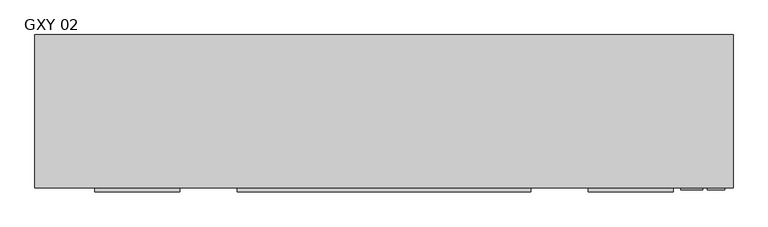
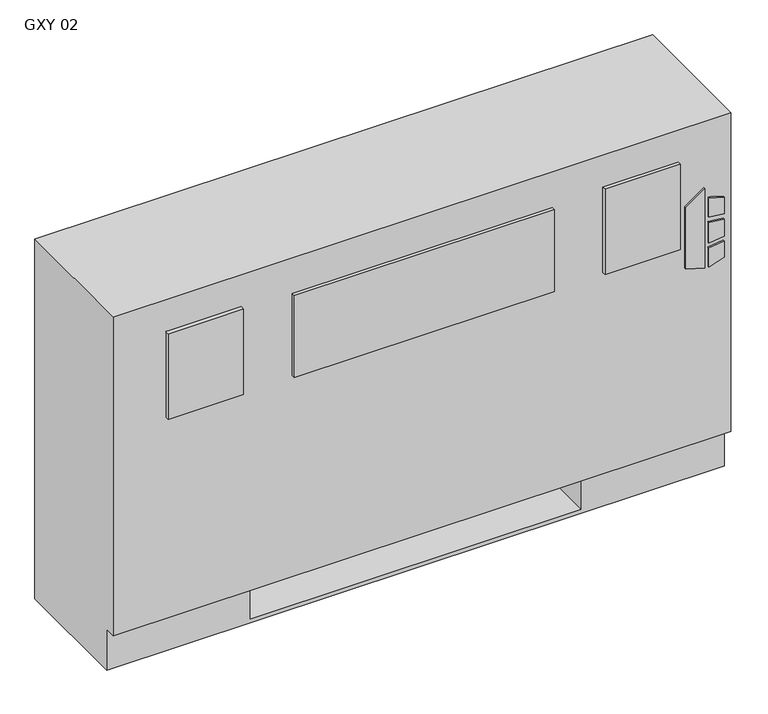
"""IFC4 building model written with IfcOpenShell, lengths in millimetres: proxy geometry, Vertical_Fan_Coil_Unit_-_GXY_-_IEC_-_2-Pipe_FS-FR_LH_2022 : GXY 02."""

import ifcopenshell
import ifcopenshell.guid

model = None  # the IFC model being written
_history = None  # IfcOwnerHistory: only IFC2X3 demands one
_inside = {}  # id of a spatial element -> (the spatial element, [elements in it])
_under = {}  # id of a project, library or spatial element -> (it, [spatial elements below it])
_declared = {}  # id of a project -> (the project, [libraries it declares])
_typed = {}  # id of a type object -> (the type object, [elements of that type])
_made_of = {}  # id of a material, layer set ... -> (it, [elements and type objects made of it])


def new_model(schema):
    """Start an empty IFC model of exactly this schema.

    Asked for "IFC4X3", IfcOpenShell would pick the latest addendum, in which some entities
    have other attributes; the version numbers below select the first issue.
    IFC2X3 requires an IfcOwnerHistory on every rooted entity: one is made here for all.
    """
    global model, _history
    if schema == "IFC4X3":
        model = ifcopenshell.file(schema_version=(4, 3, 0, 0))
    else:
        model = ifcopenshell.file(schema=schema)
    _inside.clear()
    _under.clear()
    _declared.clear()
    _typed.clear()
    _made_of.clear()
    _history = None
    if model.schema == "IFC2X3":
        org = make("IfcOrganization", Name="unknown")
        user = make(
            "IfcPersonAndOrganization",
            ThePerson=make("IfcPerson", FamilyName="unknown"),
            TheOrganization=org,
        )
        app = make(
            "IfcApplication",
            ApplicationDeveloper=org,
            Version="unknown",
            ApplicationFullName="unknown",
            ApplicationIdentifier="unknown",
        )
        _history = make(
            "IfcOwnerHistory",
            OwningUser=user,
            OwningApplication=app,
            ChangeAction="ADDED",
            CreationDate=0,
        )
    return model


def make(cls, **values):
    """One entity of the class cls with the attributes given. An attribute that is None is left unset."""
    return model.create_entity(
        cls, **{name: value for name, value in values.items() if value is not None}
    )


def rooted(cls, **values):
    """An entity with a GlobalId (a new one), such as an element, a storey or a relation."""
    return make(cls, GlobalId=ifcopenshell.guid.new(), OwnerHistory=_history, **values)


def si_unit(unit_type, name, prefix=None):
    """IfcSIUnit, for example si_unit("LENGTHUNIT", "METRE", prefix="MILLI")."""
    return make("IfcSIUnit", UnitType=unit_type, Prefix=prefix, Name=name)


def assignment(units):
    """IfcUnitAssignment: the units of a project."""
    return None if units is None else make("IfcUnitAssignment", Units=units)


def point(xyz):
    """IfcCartesianPoint."""
    return None if xyz is None else make("IfcCartesianPoint", Coordinates=xyz)


def direction(xyz):
    """IfcDirection."""
    return None if xyz is None else make("IfcDirection", DirectionRatios=xyz)


def frame(location, z_axis=None, x_axis=None):
    """IfcAxis2Placement3D, a coordinate frame: its origin and axes. An axis left out is left unset."""
    return make(
        "IfcAxis2Placement3D",
        Location=point(location),
        Axis=direction(z_axis),
        RefDirection=direction(x_axis),
    )


def frame_2d(location, x_axis=None):
    """IfcAxis2Placement2D, a coordinate frame in the plane: its origin and x axis."""
    return make(
        "IfcAxis2Placement2D", Location=point(location), RefDirection=direction(x_axis)
    )


def origin():
    """The frame at (0, 0, 0) with its axes left unset."""
    return frame((0.0, 0.0, 0.0))


def place(relative_to, where):
    """IfcLocalPlacement: puts the frame where relative to a parent placement (None: the world)."""
    return make(
        "IfcLocalPlacement", PlacementRelTo=relative_to, RelativePlacement=where
    )


def context(
    kind, dimensions, precision=None, world=None, true_north=None, identifier=None
):
    """IfcGeometricRepresentationContext, for example the 3D "Model" context."""
    return make(
        "IfcGeometricRepresentationContext",
        ContextIdentifier=identifier,
        ContextType=kind,
        CoordinateSpaceDimension=dimensions,
        Precision=precision,
        WorldCoordinateSystem=world,
        TrueNorth=true_north,
    )


def project(units=None, contexts=None):
    """IfcProject with its units and contexts."""
    return rooted(
        "IfcProject",
        Name="project",
        RepresentationContexts=contexts,
        UnitsInContext=assignment(units),
    )


def spatial(cls, under=None, at=None, **own):
    """A site, building, storey or space (cls), placed at a placement, below another one or the project."""
    s = rooted(cls, ObjectPlacement=at, **own)
    if under is not None:
        _under.setdefault(under.id(), (under, []))[1].append(s)
    return s


def polyline(points):
    """IfcPolyline through the points."""
    return make("IfcPolyline", Points=[point(p) for p in points])


def circle_curve(where, radius):
    """IfcCircle in the frame where."""
    return make("IfcCircle", Position=where, Radius=radius)


def trimmed(basis, trim1, trim2, sense, master):
    """IfcTrimmedCurve: the piece of a basis curve between two trims."""
    return make(
        "IfcTrimmedCurve",
        BasisCurve=basis,
        Trim1=trim1,
        Trim2=trim2,
        SenseAgreement=sense,
        MasterRepresentation=master,
    )


def segment(curve, same_sense, transition):
    """IfcCompositeCurveSegment."""
    return make(
        "IfcCompositeCurveSegment",
        Transition=transition,
        SameSense=same_sense,
        ParentCurve=curve,
    )


def composite_curve(segments, self_intersect=None):
    """IfcCompositeCurve: segments joined end to end."""
    return make("IfcCompositeCurve", Segments=segments, SelfIntersect=self_intersect)


def outline(outer, holes=None, kind="AREA"):
    """IfcArbitraryClosedProfileDef: a profile drawn as a closed curve; with holes, ...WithVoids."""
    if holes is None:
        return make("IfcArbitraryClosedProfileDef", ProfileType=kind, OuterCurve=outer)
    return make(
        "IfcArbitraryProfileDefWithVoids",
        ProfileType=kind,
        OuterCurve=outer,
        InnerCurves=holes,
    )


def extrude(swept, where, along, depth):
    """IfcExtrudedAreaSolid: the profile swept, set in the frame where, extruded along a direction by depth."""
    return make(
        "IfcExtrudedAreaSolid",
        SweptArea=swept,
        Position=where,
        ExtrudedDirection=direction(along),
        Depth=depth,
    )


def shape(context_of_items, identifier, shape_type, items):
    """IfcShapeRepresentation: the items that make up one representation, for example the "Body"."""
    return make(
        "IfcShapeRepresentation",
        ContextOfItems=context_of_items,
        RepresentationIdentifier=identifier,
        RepresentationType=shape_type,
        Items=items,
    )


def source(mapping_origin, context_of_items, identifier, shape_type, items):
    """IfcRepresentationMap: a shape defined once, which mapped items show again and again."""
    return make(
        "IfcRepresentationMap",
        MappingOrigin=mapping_origin,
        MappedRepresentation=shape(context_of_items, identifier, shape_type, items),
    )


def transform(
    local_origin,
    x_axis=None,
    y_axis=None,
    z_axis=None,
    scale=None,
    scale2=None,
    scale3=None,
    uniform=True,
):
    """IfcCartesianTransformationOperator3D, or its non-uniform kind. x_axis, y_axis, z_axis: its Axis1, 2, 3."""
    if uniform:
        return make(
            "IfcCartesianTransformationOperator3D",
            Axis1=direction(x_axis),
            Axis2=direction(y_axis),
            LocalOrigin=point(local_origin),
            Scale=scale,
            Axis3=direction(z_axis),
        )
    return make(
        "IfcCartesianTransformationOperator3DnonUniform",
        Axis1=direction(x_axis),
        Axis2=direction(y_axis),
        LocalOrigin=point(local_origin),
        Scale=scale,
        Axis3=direction(z_axis),
        Scale2=scale2,
        Scale3=scale3,
    )


def mapped(mapping_source, mapping_target):
    """IfcMappedItem: shows the shape of a source again, moved by a transform."""
    return make(
        "IfcMappedItem", MappingSource=mapping_source, MappingTarget=mapping_target
    )


def made_of(thing, what):
    """Note that an element or type object is made of a material, layer set ...; save() writes the relation."""
    if what is not None:
        _made_of.setdefault(what.id(), (what, []))[1].append(thing)
    return thing


def element(
    cls,
    number,
    at=None,
    inside=None,
    cuts=None,
    type_object=None,
    material=None,
    context=None,
    identifier="Body",
    shape_type=None,
    held_by="IfcProductDefinitionShape",
    body=None,
    shapes=None,
    **own,
):
    """One element of the class cls, such as IfcWall. Its Tag is "e" and its number.

    at: its placement. inside: the storey or other place that contains it. cuts: it is an
    opening in that element (IfcRelVoidsElement). A single representation is given by context,
    identifier, shape_type and body (its items); several are given by shapes. held_by: the class
    of the entity that holds the representations. save() writes the other relations.
    """
    e = rooted(cls, Tag="e%d" % number, ObjectPlacement=at, **own)
    if body is not None:
        shapes = [shape(context, identifier, shape_type, body)]
    if shapes is not None:
        e.Representation = make(held_by, Representations=shapes)
    if inside is not None:
        _inside.setdefault(inside.id(), (inside, []))[1].append(e)
    if cuts is not None:
        rooted(
            "IfcRelVoidsElement", RelatingBuildingElement=cuts, RelatedOpeningElement=e
        )
    if type_object is not None:
        _typed.setdefault(type_object.id(), (type_object, []))[1].append(e)
    return made_of(e, material)


def aggregate(whole, parts):
    """IfcRelAggregates: a whole, such as a stair, and the parts it consists of."""
    return rooted("IfcRelAggregates", RelatingObject=whole, RelatedObjects=parts)


def save(model, path):
    """Write the relations noted so far, then the file.

    IfcRelAggregates (storeys below a building ...), IfcRelContainedInSpatialStructure (elements
    in a storey), IfcRelDefinesByType, IfcRelAssociatesMaterial and IfcRelDeclares: one each for
    every whole, place, type object, material and project.
    """
    for whole, parts in _under.values():
        aggregate(whole, parts)
    for where, things in _inside.values():
        rooted(
            "IfcRelContainedInSpatialStructure",
            RelatedElements=things,
            RelatingStructure=where,
        )
    for kind, things in _typed.values():
        rooted("IfcRelDefinesByType", RelatedObjects=things, RelatingType=kind)
    for what, things in _made_of.values():
        rooted("IfcRelAssociatesMaterial", RelatedObjects=things, RelatingMaterial=what)
    for by, libraries in _declared.values():
        rooted("IfcRelDeclares", RelatingContext=by, RelatedDefinitions=libraries)
    model.write(path)


def plane_surface(at):
    """IfcPlane: the flat surface through the origin of the frame at, square to its z axis."""
    return make("IfcPlane", Position=at)


def revolved_surface(curve, axis_point, axis_direction):
    """IfcSurfaceOfRevolution: the curve turned about the line through axis_point along axis_direction."""
    return make(
        "IfcSurfaceOfRevolution",
        SweptCurve=make("IfcArbitraryOpenProfileDef", ProfileType="CURVE", Curve=curve),
        AxisPosition=make("IfcAxis1Placement", Location=point(axis_point), Axis=direction(axis_direction)),
    )


def advanced_brep(points, edges, surfaces, faces):
    """IfcAdvancedBrep: a solid bounded by faces that lie on surfaces and meet in shared edges.

    An edge is (start, end): straight between two places in points (the first is 0);
    or (start, end, curve); or (start, end, curve, False) where it runs against its curve.
    A face is (place in surfaces, loops), or (place, loops, False) where it looks against
    its surface's normal. A loop lists edges by number (the first is 1), with a minus sign
    where the edge is run from its end to its start. The first loop is the outer one.
    """
    corners = [point(p) for p in points]
    vertices = [make("IfcVertexPoint", VertexGeometry=c) for c in corners]
    made = []
    for start, end, *more in edges:
        made.append(
            make(
                "IfcEdgeCurve",
                EdgeStart=vertices[start],
                EdgeEnd=vertices[end],
                EdgeGeometry=more[0] if more else make("IfcPolyline", Points=[corners[start], corners[end]]),
                SameSense=more[1] if len(more) > 1 else True,
            )
        )
    hull = []
    for where, loops, *sense in faces:
        bounds = []
        for j, loop in enumerate(loops):
            ring = [make("IfcOrientedEdge", EdgeElement=made[abs(k) - 1], Orientation=k > 0) for k in loop]
            bounds.append(
                make(
                    "IfcFaceOuterBound" if j == 0 else "IfcFaceBound",
                    Bound=make("IfcEdgeLoop", EdgeList=ring),
                    Orientation=True,
                )
            )
        hull.append(make("IfcAdvancedFace", Bounds=bounds, FaceSurface=surfaces[where], SameSense=sense[0] if sense else True))
    return make("IfcAdvancedBrep", Outer=make("IfcClosedShell", CfsFaces=hull))


def gxy_02_a3ff833b(model_context):
    return source(origin(), model_context, "Body", "SolidModel", [
        extrude(outline(polyline([(391.6086829, 595.3868862), (381.6606126, 627.5602728), (523.831537, 627.5602728), (500.8095309, 595.3868862), (391.6086829, 595.3868862)])), frame((0.0, 12.7, 0.0), z_axis=(0.0, 1.0, 0.0), x_axis=(0.0, 0.0, 1.0)), (0.0, 0.0, 1.0), 3.175),
        extrude(outline(polyline([(470.6079683, 634.3186058), (467.4055757, 660.4), (496.6344168, 660.4), (504.6988318, 634.3186058), (470.6079683, 634.3186058)])), frame((0.0, 12.7, 0.0), z_axis=(0.0, 1.0, 0.0), x_axis=(0.0, 0.0, 1.0)), (0.0, 0.0, 1.0), 3.175),
        extrude(outline(polyline([(418.7444414, 660.4), (415.0789404, 634.3186058), (381.6606126, 634.3186058), (390.2948498, 660.4), (418.7444414, 660.4)])), frame((0.0, 12.7, 0.0), z_axis=(0.0, 1.0, 0.0), x_axis=(0.0, 0.0, 1.0)), (0.0, 0.0, 1.0), 3.175),
        extrude(outline(polyline([(458.0596028, 660.4), (460.3414292, 634.3186058), (424.4038806, 634.3186058), (427.1451456, 660.4), (458.0596028, 660.4)])), frame((0.0, 12.7, 0.0), z_axis=(0.0, 1.0, 0.0), x_axis=(0.0, 0.0, 1.0)), (0.0, 0.0, 1.0), 3.175),
        extrude(outline(polyline([(-152.4, 9.525), (-279.4, 9.525), (-279.4, 15.875), (-152.4, 15.875), (-152.4, 9.525)])), frame((0.0, 0.0, 431.8), z_axis=(0.0, 0.0, 1.0), x_axis=(1.0, 0.0, 0.0)), (0.0, 0.0, 1.0), 152.4),
        extrude(outline(polyline([(371.475, 9.525), (-66.675, 9.525), (-66.675, 15.875), (371.475, 15.875), (371.475, 9.525)])), frame((0.0, 0.0, 431.8), z_axis=(0.0, 0.0, 1.0), x_axis=(1.0, 0.0, 0.0)), (0.0, 0.0, 1.0), 146.05),
        extrude(outline(polyline([(584.2, 9.525), (457.2, 9.525), (457.2, 15.875), (584.2, 15.875), (584.2, 9.525)])), frame((0.0, 0.0, 431.8), z_axis=(0.0, 0.0, 1.0), x_axis=(1.0, 0.0, 0.0)), (0.0, 0.0, 1.0), 152.4),
        extrude(outline(polyline([(431.8, 81.534), (431.8, 223.266), (552.45, 223.266), (552.45, 81.534), (431.8, 81.534)])), frame((0.0, 0.0, 327.025), z_axis=(0.0, 0.0, 1.0), x_axis=(1.0, 0.0, 0.0)), (0.0, 0.0, 1.0), 260.35),
        extrude(outline(composite_curve([segment(trimmed(circle_curve(frame_2d((78.9432, 398.5514)), 7.9375), [point((78.9432, 406.4889))], [point((78.9432, 390.6139))], False, "CARTESIAN"), True, "CONTINUOUS"), segment(trimmed(circle_curve(frame_2d((78.9432, 398.5514)), 7.9375), [point((78.9432, 390.6139))], [point((78.9432, 406.4889))], False, "CARTESIAN"), True, "CONTINUOUS")], self_intersect=False)), frame((-177.8, 0.0, 0.0), z_axis=(1.0, 0.0, 0.0), x_axis=(0.0, 1.0, 0.0)), (0.0, 0.0, 1.0), 50.8),
        extrude(outline(composite_curve([segment(trimmed(circle_curve(frame_2d((155.9052, 537.3878)), 7.9375), [point((155.9052, 545.3253))], [point((155.9052, 529.4503))], False, "CARTESIAN"), True, "CONTINUOUS"), segment(trimmed(circle_curve(frame_2d((155.9052, 537.3878)), 7.9375), [point((155.9052, 529.4503))], [point((155.9052, 545.3253))], False, "CARTESIAN"), True, "CONTINUOUS")], self_intersect=False)), frame((-177.8, 0.0, 0.0), z_axis=(1.0, 0.0, 0.0), x_axis=(0.0, 1.0, 0.0)), (0.0, 0.0, 1.0), 50.8),
        advanced_brep(
        [(673.1, 244.475, 641.35), (-368.3, 244.475, 641.35), (-368.3, 15.875, 641.35), (673.1, 15.875, 641.35), (-368.3, 244.475, 0.0), (673.1, 244.475, 0.0), (673.1, 34.925, 0.0), (-368.3, 34.925, 0.0), (431.8, 244.475, 73.025), (660.4, 244.475, 73.025), (660.4, 244.475, 628.65), (431.8, 244.475, 628.65), (431.8, 244.475, 418.0400565), (460.375, 244.475, 418.0400565), (460.375, 244.475, 388.4099435), (431.8, 244.475, 388.4099435), (431.8, 244.475, 290.5125), (460.375, 244.475, 290.5125), (460.375, 244.475, 261.9375), (431.8, 244.475, 261.9375), (431.8, 244.475, 119.0625), (460.375, 244.475, 119.0625), (460.375, 244.475, 90.4875), (431.8, 244.475, 90.4875), (-127.0, 244.475, 628.65), (-355.6, 244.475, 628.65), (-355.6, 244.475, 73.025), (-127.0, 244.475, 73.025), (-127.0, 244.475, 90.4875), (-155.575, 244.475, 90.4875), (-155.575, 244.475, 119.0625), (-127.0, 244.475, 119.0625), (-127.0, 244.475, 261.9375), (-155.575, 244.475, 261.9375), (-155.575, 244.475, 290.5125), (-127.0, 244.475, 290.5125), (-127.0, 244.475, 388.4099435), (-155.575, 244.475, 388.4099435), (-155.575, 244.475, 418.0400565), (-127.0, 244.475, 418.0400565), (450.0626, 244.475, 104.775), (438.9374, 244.475, 104.775), (450.0626, 244.475, 403.225), (438.9374, 244.475, 403.225), (450.0626, 244.475, 276.225), (438.9374, 244.475, 276.225), (-134.1374, 244.475, 104.775), (-145.2626, 244.475, 104.775), (-134.1374, 244.475, 276.225), (-145.2626, 244.475, 276.225), (-134.1374, 244.475, 403.225), (-145.2626, 244.475, 403.225), (-368.3, 34.925, 73.025), (-368.3, 15.875, 73.025), (673.1, 15.875, 73.025), (673.1, 34.925, 73.025), (-127.0, 34.925, 73.025), (-127.0, 219.075, 73.025), (431.8, 219.075, 73.025), (431.8, 34.925, 73.025), (431.8, 34.925, 6.35), (-127.0, 34.925, 6.35), (431.8, 41.275, 628.65), (660.4, 41.275, 628.65), (660.4, 41.275, 73.025), (431.8, 41.275, 73.025), (-127.0, 41.275, 628.65), (-127.0, 41.275, 73.025), (-355.6, 41.275, 73.025), (-355.6, 41.275, 628.65), (431.8, 219.075, 73.025), (431.8, 238.125, 90.4875), (431.8, 238.125, 119.0625), (431.8, 238.125, 261.9375), (431.8, 238.125, 290.5125), (431.8, 238.125, 388.4099435), (431.8, 238.125, 418.0400565), (-127.0, 219.075, 73.025), (-127.0, 238.125, 418.0400565), (-127.0, 238.125, 388.4099435), (-127.0, 238.125, 290.5125), (-127.0, 238.125, 261.9375), (-127.0, 238.125, 119.0625), (-127.0, 238.125, 90.4875), (-127.0, 219.075, 6.35), (431.8, 219.075, 6.35), (460.375, 238.125, 90.4875), (460.375, 238.125, 119.0625), (438.9374, 238.125, 104.775), (450.0626, 238.125, 104.775), (460.375, 238.125, 261.9375), (460.375, 238.125, 290.5125), (438.9374, 238.125, 276.225), (450.0626, 238.125, 276.225), (460.375, 238.125, 388.4099435), (460.375, 238.125, 418.0400565), (438.9374, 238.125, 403.225), (450.0626, 238.125, 403.225), (-155.575, 238.125, 119.0625), (-155.575, 238.125, 90.4875), (-145.2626, 238.125, 104.775), (-134.1374, 238.125, 104.775), (-155.575, 238.125, 290.5125), (-155.575, 238.125, 261.9375), (-145.2626, 238.125, 276.225), (-134.1374, 238.125, 276.225), (-155.575, 238.125, 418.0400565), (-155.575, 238.125, 388.4099435), (-145.2626, 238.125, 403.225), (-134.1374, 238.125, 403.225)],
        [
            (0, 1),
            (1, 2),
            (2, 3),
            (3, 0),
            (4, 5),
            (5, 6),
            (6, 7),
            (7, 4),
            (0, 5),
            (4, 1),
            (8, 9),
            (9, 10),
            (10, 11),
            (11, 12),
            (12, 13),
            (13, 14),
            (14, 15),
            (15, 16),
            (16, 17),
            (17, 18),
            (18, 19),
            (19, 20),
            (20, 21),
            (21, 22),
            (22, 23),
            (23, 8),
            (24, 25),
            (25, 26),
            (26, 27),
            (27, 28),
            (28, 29),
            (29, 30),
            (30, 31),
            (31, 32),
            (32, 33),
            (33, 34),
            (34, 35),
            (35, 36),
            (36, 37),
            (37, 38),
            (38, 39),
            (39, 24),
            (40, 41, circle_curve(frame((444.5, 244.475, 104.775), z_axis=(0.0, -1.0, 0.0), x_axis=(-1.0, 0.0, 0.0)), 5.5626)),
            (41, 40, circle_curve(frame((444.5, 244.475, 104.775), z_axis=(0.0, -1.0, 0.0), x_axis=(-1.0, 0.0, 0.0)), 5.5626)),
            (42, 43, circle_curve(frame((444.5, 244.475, 403.225), z_axis=(0.0, -1.0, 0.0), x_axis=(-1.0, 0.0, 0.0)), 5.5626)),
            (43, 42, circle_curve(frame((444.5, 244.475, 403.225), z_axis=(0.0, -1.0, 0.0), x_axis=(-1.0, 0.0, 0.0)), 5.5626)),
            (44, 45, circle_curve(frame((444.5, 244.475, 276.225), z_axis=(0.0, -1.0, 0.0), x_axis=(-1.0, 0.0, 0.0)), 5.5626)),
            (45, 44, circle_curve(frame((444.5, 244.475, 276.225), z_axis=(0.0, -1.0, 0.0), x_axis=(-1.0, 0.0, 0.0)), 5.5626)),
            (46, 47, circle_curve(frame((-139.7, 244.475, 104.775), z_axis=(0.0, -1.0, 0.0), x_axis=(-1.0, 0.0, 0.0)), 5.5626)),
            (47, 46, circle_curve(frame((-139.7, 244.475, 104.775), z_axis=(0.0, -1.0, 0.0), x_axis=(-1.0, 0.0, 0.0)), 5.5626)),
            (48, 49, circle_curve(frame((-139.7, 244.475, 276.225), z_axis=(0.0, -1.0, 0.0), x_axis=(-1.0, 0.0, 0.0)), 5.5626)),
            (49, 48, circle_curve(frame((-139.7, 244.475, 276.225), z_axis=(0.0, -1.0, 0.0), x_axis=(-1.0, 0.0, 0.0)), 5.5626)),
            (50, 51, circle_curve(frame((-139.7, 244.475, 403.225), z_axis=(0.0, -1.0, 0.0), x_axis=(-1.0, 0.0, 0.0)), 5.5626)),
            (51, 50, circle_curve(frame((-139.7, 244.475, 403.225), z_axis=(0.0, -1.0, 0.0), x_axis=(-1.0, 0.0, 0.0)), 5.5626)),
            (7, 52),
            (52, 53),
            (53, 2),
            (53, 54),
            (54, 3),
            (54, 55),
            (55, 6),
            (52, 56),
            (56, 57),
            (57, 58),
            (58, 59),
            (59, 55),
            (59, 60),
            (60, 61),
            (61, 56),
            (62, 63),
            (63, 64),
            (64, 65),
            (65, 62),
            (66, 67),
            (67, 68),
            (68, 69),
            (69, 66),
            (65, 70),
            (70, 8),
            (23, 71),
            (71, 72),
            (72, 20),
            (19, 73),
            (73, 74),
            (74, 16),
            (15, 75),
            (75, 76),
            (76, 12),
            (11, 62),
            (64, 9),
            (63, 10),
            (69, 25),
            (24, 66),
            (68, 26),
            (67, 77),
            (77, 27),
            (39, 78),
            (78, 79),
            (79, 36),
            (35, 80),
            (80, 81),
            (81, 32),
            (31, 82),
            (82, 83),
            (83, 28),
            (57, 84),
            (84, 85),
            (85, 58),
            (85, 60),
            (84, 61),
            (71, 86),
            (86, 87),
            (87, 72),
            (88, 89, circle_curve(frame((444.5, 238.125, 104.775), z_axis=(0.0, 1.0, 0.0), x_axis=(-1.0, 0.0, 0.0)), 5.5626)),
            (89, 88, circle_curve(frame((444.5, 238.125, 104.775), z_axis=(0.0, 1.0, 0.0), x_axis=(-1.0, 0.0, 0.0)), 5.5626)),
            (73, 90),
            (90, 91),
            (91, 74),
            (92, 93, circle_curve(frame((444.5, 238.125, 276.225), z_axis=(0.0, 1.0, 0.0), x_axis=(-1.0, 0.0, 0.0)), 5.5626)),
            (93, 92, circle_curve(frame((444.5, 238.125, 276.225), z_axis=(0.0, 1.0, 0.0), x_axis=(-1.0, 0.0, 0.0)), 5.5626)),
            (75, 94),
            (94, 95),
            (95, 76),
            (96, 97, circle_curve(frame((444.5, 238.125, 403.225), z_axis=(0.0, 1.0, 0.0), x_axis=(-1.0, 0.0, 0.0)), 5.5626)),
            (97, 96, circle_curve(frame((444.5, 238.125, 403.225), z_axis=(0.0, 1.0, 0.0), x_axis=(-1.0, 0.0, 0.0)), 5.5626)),
            (98, 99),
            (99, 83),
            (82, 98),
            (100, 101, circle_curve(frame((-139.7, 238.125, 104.775), z_axis=(0.0, 1.0, 0.0), x_axis=(-1.0, 0.0, 0.0)), 5.5626)),
            (101, 100, circle_curve(frame((-139.7, 238.125, 104.775), z_axis=(0.0, 1.0, 0.0), x_axis=(-1.0, 0.0, 0.0)), 5.5626)),
            (102, 103),
            (103, 81),
            (80, 102),
            (104, 105, circle_curve(frame((-139.7, 238.125, 276.225), z_axis=(0.0, 1.0, 0.0), x_axis=(-1.0, 0.0, 0.0)), 5.5626)),
            (105, 104, circle_curve(frame((-139.7, 238.125, 276.225), z_axis=(0.0, 1.0, 0.0), x_axis=(-1.0, 0.0, 0.0)), 5.5626)),
            (106, 107),
            (107, 79),
            (78, 106),
            (108, 109, circle_curve(frame((-139.7, 238.125, 403.225), z_axis=(0.0, 1.0, 0.0), x_axis=(-1.0, 0.0, 0.0)), 5.5626)),
            (109, 108, circle_curve(frame((-139.7, 238.125, 403.225), z_axis=(0.0, 1.0, 0.0), x_axis=(-1.0, 0.0, 0.0)), 5.5626)),
            (87, 21),
            (86, 22),
            (91, 17),
            (90, 18),
            (95, 13),
            (94, 14),
            (30, 98),
            (99, 29),
            (34, 102),
            (103, 33),
            (38, 106),
            (107, 37),
            (88, 41),
            (40, 89),
            (96, 43),
            (42, 97),
            (92, 45),
            (44, 93),
            (100, 47),
            (46, 101),
            (104, 49),
            (48, 105),
            (108, 51),
            (50, 109),
        ],
        [
            plane_surface(frame((-368.3, 244.475, 641.35), z_axis=(0.0, 0.0, 1.0), x_axis=(-1.0, 0.0, 0.0))),
            plane_surface(frame((-368.3, 244.475, 0.0), z_axis=(0.0, 0.0, -1.0), x_axis=(1.0, 0.0, 0.0))),
            plane_surface(frame((673.1, 244.475, 641.35), z_axis=(0.0, 1.0, 0.0), x_axis=(0.0, 0.0, -1.0))),
            plane_surface(frame((-368.3, 244.475, 641.35), z_axis=(-1.0, 0.0, 0.0), x_axis=(0.0, 0.0, -1.0))),
            plane_surface(frame((-368.3, 15.875, 641.35), z_axis=(0.0, -1.0, 0.0), x_axis=(0.0, 0.0, -1.0))),
            plane_surface(frame((673.1, 15.875, 641.35), z_axis=(1.0, 0.0, 0.0), x_axis=(0.0, 0.0, -1.0))),
            plane_surface(frame((-368.3, 15.875, 73.025), z_axis=(0.0, 0.0, -1.0), x_axis=(1.0, 0.0, 0.0))),
            plane_surface(frame((-368.3, 34.925, 73.025), z_axis=(0.0, -1.0, 0.0), x_axis=(1.0, 0.0, 0.0))),
            plane_surface(frame((431.8, 41.275, 628.65), z_axis=(0.0, 1.0, 0.0), x_axis=(0.0, 0.0, -1.0))),
            plane_surface(frame((431.8, 41.275, 628.65), z_axis=(1.0, 0.0, 0.0), x_axis=(0.0, 1.0, 0.0))),
            plane_surface(frame((431.8, 41.275, 73.025), z_axis=(0.0, 0.0, 1.0), x_axis=(0.0, 1.0, 0.0))),
            plane_surface(frame((660.4, 41.275, 73.025), z_axis=(-1.0, 0.0, 0.0), x_axis=(0.0, 1.0, 0.0))),
            plane_surface(frame((660.4, 41.275, 628.65), z_axis=(0.0, 0.0, -1.0), x_axis=(0.0, 1.0, 0.0))),
            plane_surface(frame((-127.0, 41.275, 628.65), z_axis=(0.0, 0.0, -1.0), x_axis=(0.0, 1.0, 0.0))),
            plane_surface(frame((-355.6, 41.275, 628.65), z_axis=(1.0, 0.0, 0.0), x_axis=(0.0, 1.0, 0.0))),
            plane_surface(frame((-355.6, 41.275, 73.025), z_axis=(0.0, 0.0, 1.0), x_axis=(0.0, 1.0, 0.0))),
            plane_surface(frame((-127.0, 41.275, 73.025), z_axis=(-1.0, 0.0, 0.0), x_axis=(0.0, 1.0, 0.0))),
            plane_surface(frame((431.8, 219.075, 73.025), z_axis=(0.0, -1.0, 0.0), x_axis=(0.0, 0.0, -1.0))),
            plane_surface(frame((431.8, 219.075, 73.025), z_axis=(-1.0, 0.0, 0.0), x_axis=(0.0, -1.0, 0.0))),
            plane_surface(frame((431.8, 219.075, 6.35), z_axis=(0.0, 0.0, 1.0), x_axis=(0.0, -1.0, 0.0))),
            plane_surface(frame((-127.0, 219.075, 6.35), z_axis=(1.0, 0.0, 0.0), x_axis=(0.0, -1.0, 0.0))),
            plane_surface(frame((460.375, 238.125, 119.0625), z_axis=(0.0, -1.0, 0.0), x_axis=(-1.0, 0.0, 0.0))),
            plane_surface(frame((431.8, 244.475, 119.0625), z_axis=(0.0, 0.0, 1.0), x_axis=(0.0, -1.0, 0.0))),
            plane_surface(frame((460.375, 244.475, 119.0625), z_axis=(1.0, 0.0, 0.0), x_axis=(0.0, -1.0, 0.0))),
            plane_surface(frame((460.375, 244.475, 90.4875), z_axis=(0.0, 0.0, -1.0), x_axis=(0.0, -1.0, 0.0))),
            plane_surface(frame((431.8, 244.475, 290.5125), z_axis=(0.0, 0.0, 1.0), x_axis=(0.0, -1.0, 0.0))),
            plane_surface(frame((460.375, 244.475, 290.5125), z_axis=(1.0, 0.0, 0.0), x_axis=(0.0, -1.0, 0.0))),
            plane_surface(frame((460.375, 244.475, 261.9375), z_axis=(0.0, 0.0, -1.0), x_axis=(0.0, -1.0, 0.0))),
            plane_surface(frame((431.8, 244.475, 418.0400565), z_axis=(0.0, 0.0, 1.0), x_axis=(0.0, -1.0, 0.0))),
            plane_surface(frame((460.375, 244.475, 418.0400565), z_axis=(1.0, 0.0, 0.0), x_axis=(0.0, -1.0, 0.0))),
            plane_surface(frame((460.375, 244.475, 388.4099435), z_axis=(0.0, 0.0, -1.0), x_axis=(0.0, -1.0, 0.0))),
            plane_surface(frame((-155.575, 244.475, 119.0625), z_axis=(0.0, 0.0, 1.0), x_axis=(0.0, -1.0, 0.0))),
            plane_surface(frame((-127.0, 244.475, 90.4875), z_axis=(0.0, 0.0, -1.0), x_axis=(0.0, -1.0, 0.0))),
            plane_surface(frame((-155.575, 244.475, 90.4875), z_axis=(-1.0, 0.0, 0.0), x_axis=(0.0, -1.0, 0.0))),
            plane_surface(frame((-155.575, 244.475, 290.5125), z_axis=(0.0, 0.0, 1.0), x_axis=(0.0, -1.0, 0.0))),
            plane_surface(frame((-127.0, 244.475, 261.9375), z_axis=(0.0, 0.0, -1.0), x_axis=(0.0, -1.0, 0.0))),
            plane_surface(frame((-155.575, 244.475, 261.9375), z_axis=(-1.0, 0.0, 0.0), x_axis=(0.0, -1.0, 0.0))),
            plane_surface(frame((-155.575, 244.475, 418.0400565), z_axis=(0.0, 0.0, 1.0), x_axis=(0.0, -1.0, 0.0))),
            plane_surface(frame((-127.0, 244.475, 388.4099435), z_axis=(0.0, 0.0, -1.0), x_axis=(0.0, -1.0, 0.0))),
            plane_surface(frame((-155.575, 244.475, 388.4099435), z_axis=(-1.0, 0.0, 0.0), x_axis=(0.0, -1.0, 0.0))),
            revolved_surface(polyline([(438.9374, 238.125, 104.775), (438.9374, 244.475, 104.775)]), (444.5, 244.475, 104.775), (0.0, -1.0, 0.0)),
            revolved_surface(polyline([(438.9374, 238.125, 403.225), (438.9374, 244.475, 403.225)]), (444.5, 244.475, 403.225), (0.0, -1.0, 0.0)),
            revolved_surface(polyline([(438.9374, 238.125, 276.225), (438.9374, 244.475, 276.225)]), (444.5, 244.475, 276.225), (0.0, -1.0, 0.0)),
            revolved_surface(polyline([(-145.2626, 238.125, 104.775), (-145.2626, 244.475, 104.775)]), (-139.7, 244.475, 104.775), (0.0, -1.0, 0.0)),
            revolved_surface(polyline([(-145.2626, 238.125, 276.225), (-145.2626, 244.475, 276.225)]), (-139.7, 244.475, 276.225), (0.0, -1.0, 0.0)),
            revolved_surface(polyline([(-145.2626, 238.125, 403.225), (-145.2626, 244.475, 403.225)]), (-139.7, 244.475, 403.225), (0.0, -1.0, 0.0)),
        ],
        [
            (0, [[1, 2, 3, 4]]),
            (1, [[5, 6, 7, 8]]),
            (2, [[-1, 9, -5, 10], [11, 12, 13, 14, 15, 16, 17, 18, 19, 20, 21, 22, 23, 24, 25, 26], [27, 28, 29, 30, 31, 32, 33, 34, 35, 36, 37, 38, 39, 40, 41, 42], [43, 44], [45, 46], [47, 48], [49, 50], [51, 52], [53, 54]]),
            (3, [[-2, -10, -8, 55, 56, 57]]),
            (4, [[-3, -57, 58, 59]]),
            (5, [[-4, -59, 60, 61, -6, -9]]),
            (6, [[-56, 62, 63, 64, 65, 66, -60, -58]]),
            (7, [[-7, -61, -66, 67, 68, 69, -62, -55]]),
            (8, [[70, 71, 72, 73]]),
            (8, [[74, 75, 76, 77]]),
            (9, [[-73, 78, 79, -26, 80, 81, 82, -22, 83, 84, 85, -18, 86, 87, 88, -14, 89]]),
            (10, [[-72, 90, -11, -79, -78]]),
            (11, [[-71, 91, -12, -90]]),
            (12, [[-70, -89, -13, -91]]),
            (13, [[-77, 92, -27, 93]]),
            (14, [[-76, 94, -28, -92]]),
            (15, [[-75, 95, 96, -29, -94]]),
            (16, [[-74, -93, -42, 97, 98, 99, -38, 100, 101, 102, -34, 103, 104, 105, -30, -96, -95]]),
            (17, [[-64, 106, 107, 108]]),
            (18, [[-108, 109, -67, -65]]),
            (19, [[-107, 110, -68, -109]]),
            (20, [[-106, -63, -69, -110]]),
            (21, [[111, 112, 113, -81], [114, 115]]),
            (21, [[116, 117, 118, -84], [119, 120]]),
            (21, [[121, 122, 123, -87], [124, 125]]),
            (21, [[126, 127, -104, 128], [129, 130]]),
            (21, [[131, 132, -101, 133], [134, 135]]),
            (21, [[136, 137, -98, 138], [139, 140]]),
            (22, [[-113, 141, -23, -82]]),
            (23, [[-112, 142, -24, -141]]),
            (24, [[-111, -80, -25, -142]]),
            (25, [[-118, 143, -19, -85]]),
            (26, [[-117, 144, -20, -143]]),
            (27, [[-116, -83, -21, -144]]),
            (28, [[-123, 145, -15, -88]]),
            (29, [[-122, 146, -16, -145]]),
            (30, [[-121, -86, -17, -146]]),
            (31, [[-128, -103, -33, 147]]),
            (32, [[-127, 148, -31, -105]]),
            (33, [[-126, -147, -32, -148]]),
            (34, [[-133, -100, -37, 149]]),
            (35, [[-132, 150, -35, -102]]),
            (36, [[-131, -149, -36, -150]]),
            (37, [[-138, -97, -41, 151]]),
            (38, [[-137, 152, -39, -99]]),
            (39, [[-136, -151, -40, -152]]),
            (40, [[153, -43, 154, -114]]),
            (40, [[-153, -115, -154, -44]]),
            (41, [[155, -45, 156, -124]]),
            (41, [[-155, -125, -156, -46]]),
            (42, [[157, -47, 158, -119]]),
            (42, [[-157, -120, -158, -48]]),
            (43, [[159, -49, 160, -129]]),
            (43, [[-159, -130, -160, -50]]),
            (44, [[161, -51, 162, -134]]),
            (44, [[-161, -135, -162, -52]]),
            (45, [[163, -53, 164, -139]]),
            (45, [[-163, -140, -164, -54]]),
        ],
    ),
    ])


if __name__ == "__main__":
    model = new_model("IFC4")
    model_context = context("Model", 3, world=origin())
    ifc_project = project(units=[si_unit("LENGTHUNIT", "METRE", prefix="MILLI")], contexts=[model_context])
    site = spatial("IfcSite", under=ifc_project)
    building = spatial("IfcBuilding", under=site)
    placement = place(None, origin())
    gxy_02_shape = gxy_02_a3ff833b(model_context)
    element("IfcBuildingElementProxy", 1, Name="Vertical_Fan_Coil_Unit_-_GXY_-_IEC_-_2-Pipe_FS-FR_LH_2022 : GXY 02", ObjectType="Vertical_Fan_Coil_Unit_-_GXY_-_IEC_-_2-Pipe_FS-FR_LH_2022 : GXY 02", at=placement, inside=building, context=model_context, shape_type="MappedRepresentation", body=[
        mapped(gxy_02_shape, transform((0.0, 0.0, 0.0), x_axis=(1.0, 0.0, 0.0), y_axis=(0.0, 1.0, 0.0), z_axis=(0.0, 0.0, 1.0))),
    ])
    save(model, "model.ifc")
